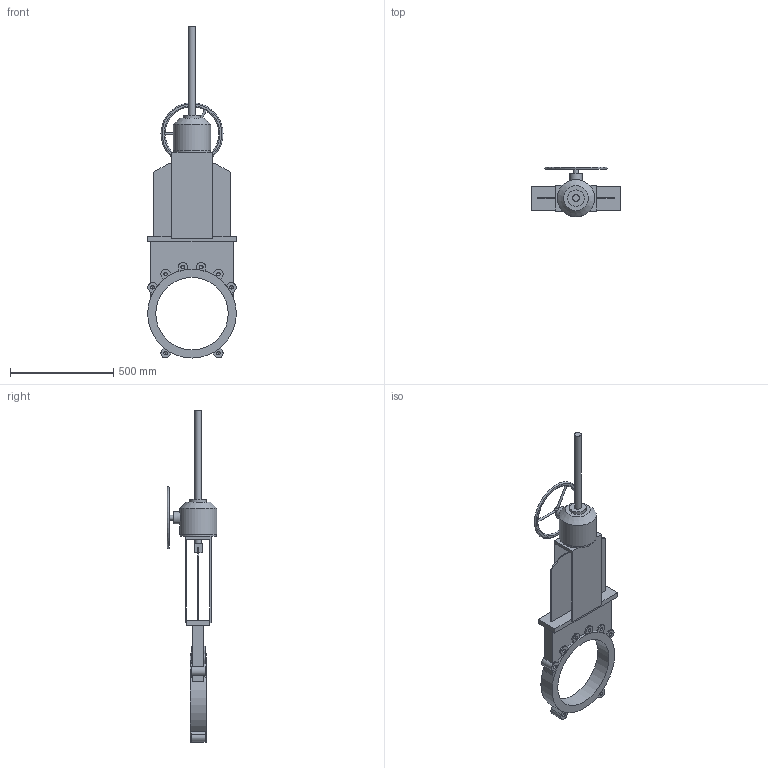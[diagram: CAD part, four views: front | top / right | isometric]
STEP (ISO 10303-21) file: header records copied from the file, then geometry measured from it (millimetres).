
FILE_DESCRIPTION(('STEP AP203'), '1');
FILE_NAME('Çàäâèæêà øèáåðíàÿ K21GV DN350 ðåäóêòîð+âûäâèæíîé øïèíäåëü', '', ('UNSPECIFIED'), ('UNSPECIFIED'), 'ASCON STEP Converter 1.6', 'ASCON Math Kernel', '');
FILE_SCHEMA(('CONFIG_CONTROL_DESIGN'));
Length unit declared in the file: millimetre
Bounding box: 430 x 240 x 1605.5 mm (x, y, z)
Volume: 15551676.1 mm3; surface area: 1416858.5 mm2
Topology: 1 solids, 1 shells, 157 faces, 419 edges, 267 vertices
Faces by surface type: plane 96, cylinder 40, cone 17, torus 4
Full cylindrical faces by diameter (mm): 10 x3, 17.294 x16, 24 x1, 32 x2, 60 x1, 80 x1, 175 x1, 180 x1, 350 x1, 429 x1
Entity records: 7091 total; most frequent: CARTESIAN_POINT 2084, DIRECTION 784, ORIENTED_EDGE 712, EDGE_CURVE 356, AXIS2_PLACEMENT_3D 283, VERTEX_POINT 251, EDGE_LOOP 219, LINE 218
